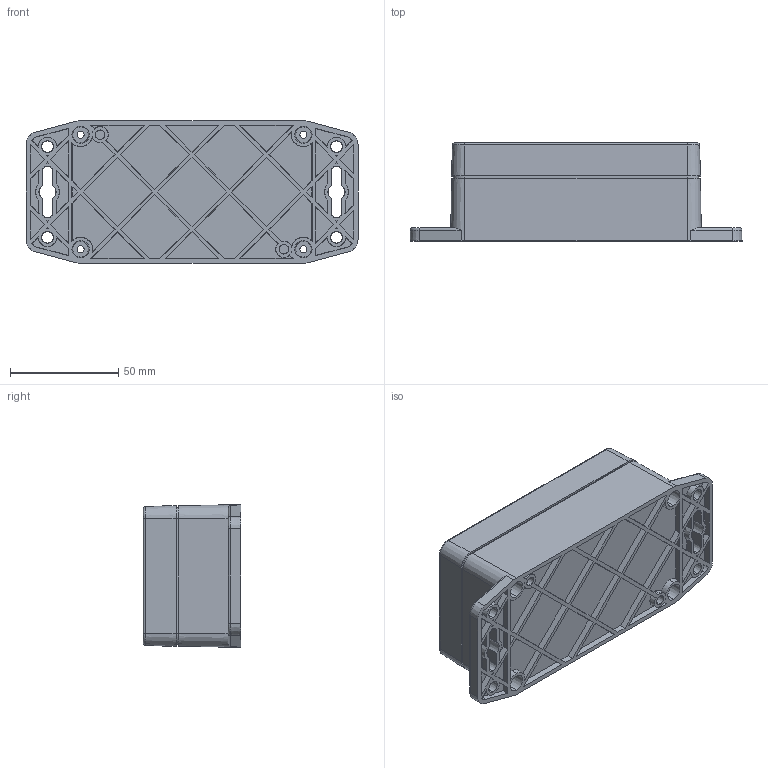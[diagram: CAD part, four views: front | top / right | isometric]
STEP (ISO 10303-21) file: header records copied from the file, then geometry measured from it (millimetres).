
FILE_DESCRIPTION (( 'STEP AP203' ), '1' );
FILE_NAME ('SF-210-0-0.STEP', '2022-04-29T13:50:15', ( '' ), ( '' ), 'SwSTEP 2.0', 'SolidWorks 2021', '' );
FILE_SCHEMA (( 'CONFIG_CONTROL_DESIGN' ));
Length unit declared in the file: millimetre
Products named in the file (3): SF-210-P-1; SE-212-P-2; SF-210-0-0
Assembly tree (2 placements, depth 2):
  SF-210-0-0
    SF-210-P-1
    SE-212-P-2
Bounding box: 153.54 x 45.3 x 66.05 mm (x, y, z)
Volume: 111741 mm3; surface area: 77893.3 mm2
Topology: 2 solids, 2 shells, 657 faces, 1670 edges, 1108 vertices
Faces by surface type: plane 363, cone 208, cylinder 78, torus 8
Entity records: 20473 total; most frequent: CARTESIAN_POINT 3804, DIRECTION 3490, ORIENTED_EDGE 3340, EDGE_CURVE 1670, AXIS2_PLACEMENT_3D 1270, VERTEX_POINT 1108, LINE 950, VECTOR 950
